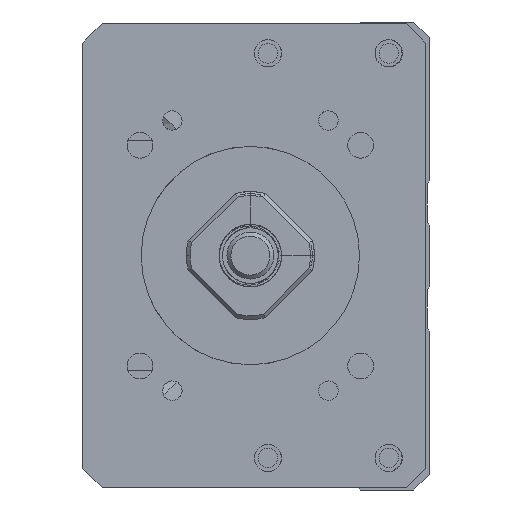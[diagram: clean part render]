
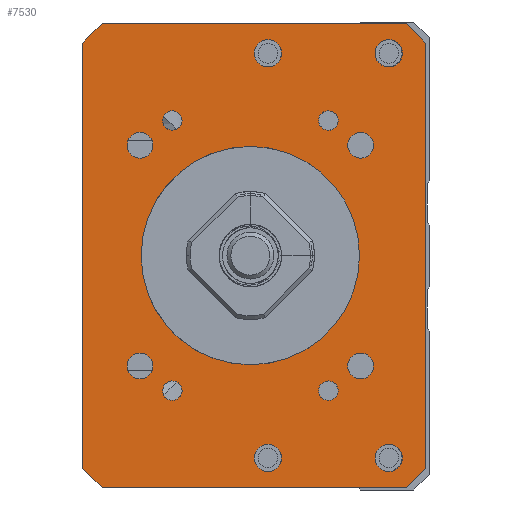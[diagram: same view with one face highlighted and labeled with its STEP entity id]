
A CAD part, left-side view. The second image highlights one B-rep face of the part: STEP entity #7530.
In plain terms, the highlighted planar face has unit normal (-1, 0, 0).
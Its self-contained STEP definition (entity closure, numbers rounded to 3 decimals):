
#4577=CIRCLE('',#14861,14.);
#4586=CIRCLE('',#14872,1.65);
#4587=CIRCLE('',#14873,1.65);
#4588=CIRCLE('',#14874,1.65);
#4589=CIRCLE('',#14875,1.65);
#4590=CIRCLE('',#14876,1.25);
#4591=CIRCLE('',#14877,1.75);
#4592=CIRCLE('',#14878,1.25);
#4593=CIRCLE('',#14879,1.75);
#4594=CIRCLE('',#14880,1.25);
#4595=CIRCLE('',#14881,1.75);
#4596=CIRCLE('',#14882,1.75);
#4597=CIRCLE('',#14883,1.25);
#5029=PLANE('',#14884);
#5921=LINE('',#19464,#6734);
#5923=LINE('',#19488,#6736);
#5924=LINE('',#19490,#6737);
#5925=LINE('',#19492,#6738);
#5926=LINE('',#19494,#6739);
#5927=LINE('',#19496,#6740);
#5928=LINE('',#19498,#6741);
#5929=LINE('',#19500,#6742);
#6734=VECTOR('',#16359,1.);
#6736=VECTOR('',#16383,1.);
#6737=VECTOR('',#16384,1.);
#6738=VECTOR('',#16385,1.);
#6739=VECTOR('',#16386,1.);
#6740=VECTOR('',#16387,1.);
#6741=VECTOR('',#16388,1.);
#6742=VECTOR('',#16389,1.);
#7530=ADVANCED_FACE('',(#8299,#8300,#8301,#8302,#8303,#8304,#8305,#8306,
#8307,#8308,#8309,#8310,#8311,#8312),#5029,.F.);
#8299=FACE_BOUND('',#8830,.T.);
#8300=FACE_BOUND('',#8831,.T.);
#8301=FACE_BOUND('',#8832,.T.);
#8302=FACE_BOUND('',#8833,.T.);
#8303=FACE_BOUND('',#8834,.T.);
#8304=FACE_BOUND('',#8835,.T.);
#8305=FACE_BOUND('',#8836,.T.);
#8306=FACE_BOUND('',#8837,.T.);
#8307=FACE_BOUND('',#8838,.T.);
#8308=FACE_BOUND('',#8839,.T.);
#8309=FACE_BOUND('',#8840,.T.);
#8310=FACE_BOUND('',#8841,.T.);
#8311=FACE_BOUND('',#8842,.T.);
#8312=FACE_BOUND('',#8843,.T.);
#8830=EDGE_LOOP('',(#10151));
#8831=EDGE_LOOP('',(#10152));
#8832=EDGE_LOOP('',(#10153));
#8833=EDGE_LOOP('',(#10154));
#8834=EDGE_LOOP('',(#10155));
#8835=EDGE_LOOP('',(#10156));
#8836=EDGE_LOOP('',(#10157));
#8837=EDGE_LOOP('',(#10158));
#8838=EDGE_LOOP('',(#10159));
#8839=EDGE_LOOP('',(#10160,#10161,#10162,#10163,#10164,#10165,#10166,#10167));
#8840=EDGE_LOOP('',(#10168));
#8841=EDGE_LOOP('',(#10169));
#8842=EDGE_LOOP('',(#10170));
#8843=EDGE_LOOP('',(#10171));
#10151=ORIENTED_EDGE('',*,*,#13492,.F.);
#10152=ORIENTED_EDGE('',*,*,#13493,.F.);
#10153=ORIENTED_EDGE('',*,*,#13494,.F.);
#10154=ORIENTED_EDGE('',*,*,#13495,.F.);
#10155=ORIENTED_EDGE('',*,*,#13496,.F.);
#10156=ORIENTED_EDGE('',*,*,#13497,.T.);
#10157=ORIENTED_EDGE('',*,*,#13498,.F.);
#10158=ORIENTED_EDGE('',*,*,#13499,.F.);
#10159=ORIENTED_EDGE('',*,*,#13500,.F.);
#10160=ORIENTED_EDGE('',*,*,#13489,.T.);
#10161=ORIENTED_EDGE('',*,*,#13501,.T.);
#10162=ORIENTED_EDGE('',*,*,#13502,.F.);
#10163=ORIENTED_EDGE('',*,*,#13503,.T.);
#10164=ORIENTED_EDGE('',*,*,#13504,.F.);
#10165=ORIENTED_EDGE('',*,*,#13505,.T.);
#10166=ORIENTED_EDGE('',*,*,#13506,.T.);
#10167=ORIENTED_EDGE('',*,*,#13507,.T.);
#10168=ORIENTED_EDGE('',*,*,#13508,.F.);
#10169=ORIENTED_EDGE('',*,*,#13509,.F.);
#10170=ORIENTED_EDGE('',*,*,#13510,.F.);
#10171=ORIENTED_EDGE('',*,*,#13469,.F.);
#12417=VERTEX_POINT('',#19403);
#12437=VERTEX_POINT('',#19463);
#12438=VERTEX_POINT('',#19465);
#12440=VERTEX_POINT('',#19471);
#12441=VERTEX_POINT('',#19473);
#12442=VERTEX_POINT('',#19475);
#12443=VERTEX_POINT('',#19477);
#12444=VERTEX_POINT('',#19479);
#12445=VERTEX_POINT('',#19481);
#12446=VERTEX_POINT('',#19483);
#12447=VERTEX_POINT('',#19485);
#12448=VERTEX_POINT('',#19487);
#12449=VERTEX_POINT('',#19489);
#12450=VERTEX_POINT('',#19491);
#12451=VERTEX_POINT('',#19493);
#12452=VERTEX_POINT('',#19495);
#12453=VERTEX_POINT('',#19497);
#12454=VERTEX_POINT('',#19499);
#12455=VERTEX_POINT('',#19502);
#12456=VERTEX_POINT('',#19504);
#12457=VERTEX_POINT('',#19506);
#13469=EDGE_CURVE('',#12417,#12417,#4577,.T.);
#13489=EDGE_CURVE('',#12438,#12437,#5921,.T.);
#13492=EDGE_CURVE('',#12440,#12440,#4586,.T.);
#13493=EDGE_CURVE('',#12441,#12441,#4587,.T.);
#13494=EDGE_CURVE('',#12442,#12442,#4588,.T.);
#13495=EDGE_CURVE('',#12443,#12443,#4589,.T.);
#13496=EDGE_CURVE('',#12444,#12444,#4590,.T.);
#13497=EDGE_CURVE('',#12445,#12445,#4591,.T.);
#13498=EDGE_CURVE('',#12446,#12446,#4592,.T.);
#13499=EDGE_CURVE('',#12447,#12447,#4593,.T.);
#13500=EDGE_CURVE('',#12448,#12448,#4594,.T.);
#13501=EDGE_CURVE('',#12437,#12449,#5923,.T.);
#13502=EDGE_CURVE('',#12450,#12449,#5924,.T.);
#13503=EDGE_CURVE('',#12450,#12451,#5925,.T.);
#13504=EDGE_CURVE('',#12452,#12451,#5926,.T.);
#13505=EDGE_CURVE('',#12452,#12453,#5927,.T.);
#13506=EDGE_CURVE('',#12453,#12454,#5928,.T.);
#13507=EDGE_CURVE('',#12454,#12438,#5929,.T.);
#13508=EDGE_CURVE('',#12455,#12455,#4595,.T.);
#13509=EDGE_CURVE('',#12456,#12456,#4596,.T.);
#13510=EDGE_CURVE('',#12457,#12457,#4597,.T.);
#14861=AXIS2_PLACEMENT_3D('',#19402,#16333,#16334);
#14872=AXIS2_PLACEMENT_3D('',#19470,#16365,#16366);
#14873=AXIS2_PLACEMENT_3D('',#19472,#16367,#16368);
#14874=AXIS2_PLACEMENT_3D('',#19474,#16369,#16370);
#14875=AXIS2_PLACEMENT_3D('',#19476,#16371,#16372);
#14876=AXIS2_PLACEMENT_3D('',#19478,#16373,#16374);
#14877=AXIS2_PLACEMENT_3D('',#19480,#16375,#16376);
#14878=AXIS2_PLACEMENT_3D('',#19482,#16377,#16378);
#14879=AXIS2_PLACEMENT_3D('',#19484,#16379,#16380);
#14880=AXIS2_PLACEMENT_3D('',#19486,#16381,#16382);
#14881=AXIS2_PLACEMENT_3D('',#19501,#16390,#16391);
#14882=AXIS2_PLACEMENT_3D('',#19503,#16392,#16393);
#14883=AXIS2_PLACEMENT_3D('',#19505,#16394,#16395);
#14884=AXIS2_PLACEMENT_3D('',#19507,#16396,#16397);
#16333=DIRECTION('',(-1.,0.,0.));
#16334=DIRECTION('',(0.,1.,0.));
#16359=DIRECTION('',(0.,0.,-1.));
#16365=DIRECTION('',(-1.,0.,0.));
#16366=DIRECTION('',(0.,0.,1.));
#16367=DIRECTION('',(-1.,0.,0.));
#16368=DIRECTION('',(0.,0.,1.));
#16369=DIRECTION('',(-1.,0.,0.));
#16370=DIRECTION('',(0.,0.,1.));
#16371=DIRECTION('',(-1.,0.,0.));
#16372=DIRECTION('',(0.,0.,1.));
#16373=DIRECTION('',(-1.,0.,0.));
#16374=DIRECTION('',(0.,1.,0.));
#16375=DIRECTION('',(1.,0.,0.));
#16376=DIRECTION('',(0.,0.,1.));
#16377=DIRECTION('',(-1.,0.,0.));
#16378=DIRECTION('',(0.,1.,0.));
#16379=DIRECTION('',(-1.,0.,0.));
#16380=DIRECTION('',(0.,0.,1.));
#16381=DIRECTION('',(-1.,0.,0.));
#16382=DIRECTION('',(0.,1.,0.));
#16383=DIRECTION('',(0.,-0.707,-0.707));
#16384=DIRECTION('',(0.,1.,0.));
#16385=DIRECTION('',(0.,-0.707,0.707));
#16386=DIRECTION('',(0.,0.,-1.));
#16387=DIRECTION('',(0.,0.707,0.707));
#16388=DIRECTION('',(0.,1.,0.));
#16389=DIRECTION('',(0.,0.707,-0.707));
#16390=DIRECTION('',(-1.,0.,0.));
#16391=DIRECTION('',(0.,0.,1.));
#16392=DIRECTION('',(-1.,0.,0.));
#16393=DIRECTION('',(0.,0.,1.));
#16394=DIRECTION('',(-1.,0.,0.));
#16395=DIRECTION('',(0.,1.,0.));
#16396=DIRECTION('',(1.,0.,0.));
#16397=DIRECTION('',(0.,1.,0.));
#19402=CARTESIAN_POINT('',(-211.,0.,-100.));
#19403=CARTESIAN_POINT('',(-211.,14.,-100.));
#19463=CARTESIAN_POINT('',(-211.,21.499,-127.25));
#19464=CARTESIAN_POINT('',(-211.,21.499,-70.25));
#19465=CARTESIAN_POINT('',(-211.,21.499,-72.75));
#19470=CARTESIAN_POINT('',(-211.,14.142,-85.858));
#19471=CARTESIAN_POINT('',(-211.,14.142,-84.208));
#19472=CARTESIAN_POINT('',(-211.,-14.142,-85.858));
#19473=CARTESIAN_POINT('',(-211.,-14.142,-84.208));
#19474=CARTESIAN_POINT('',(-211.,14.142,-114.142));
#19475=CARTESIAN_POINT('',(-211.,14.142,-112.492));
#19476=CARTESIAN_POINT('',(-211.,-14.142,-114.142));
#19477=CARTESIAN_POINT('',(-211.,-14.142,-112.492));
#19478=CARTESIAN_POINT('',(-211.,-10.,-117.321));
#19479=CARTESIAN_POINT('',(-211.,-8.75,-117.321));
#19480=CARTESIAN_POINT('',(-211.,-2.25,-125.936));
#19481=CARTESIAN_POINT('',(-211.,-2.25,-124.186));
#19482=CARTESIAN_POINT('',(-211.,10.,-82.679));
#19483=CARTESIAN_POINT('',(-211.,11.25,-82.679));
#19484=CARTESIAN_POINT('',(-211.,-2.25,-74.064));
#19485=CARTESIAN_POINT('',(-211.,-2.25,-72.314));
#19486=CARTESIAN_POINT('',(-211.,10.,-117.321));
#19487=CARTESIAN_POINT('',(-211.,11.25,-117.321));
#19488=CARTESIAN_POINT('',(-211.,18.999,-129.75));
#19489=CARTESIAN_POINT('',(-211.,18.999,-129.75));
#19490=CARTESIAN_POINT('',(-211.,-22.501,-129.75));
#19491=CARTESIAN_POINT('',(-211.,-20.001,-129.75));
#19492=CARTESIAN_POINT('',(-211.,-22.501,-127.25));
#19493=CARTESIAN_POINT('',(-211.,-22.501,-127.25));
#19494=CARTESIAN_POINT('',(-211.,-22.501,-70.25));
#19495=CARTESIAN_POINT('',(-211.,-22.501,-72.75));
#19496=CARTESIAN_POINT('',(-211.,-22.501,-72.75));
#19497=CARTESIAN_POINT('',(-211.,-20.001,-70.25));
#19498=CARTESIAN_POINT('',(-211.,-22.501,-70.25));
#19499=CARTESIAN_POINT('',(-211.,18.999,-70.25));
#19500=CARTESIAN_POINT('',(-211.,18.999,-70.25));
#19501=CARTESIAN_POINT('',(-211.,-17.75,-74.064));
#19502=CARTESIAN_POINT('',(-211.,-17.75,-72.314));
#19503=CARTESIAN_POINT('',(-211.,-17.75,-125.936));
#19504=CARTESIAN_POINT('',(-211.,-17.75,-124.186));
#19505=CARTESIAN_POINT('',(-211.,-10.,-82.679));
#19506=CARTESIAN_POINT('',(-211.,-8.75,-82.679));
#19507=CARTESIAN_POINT('',(-211.,-22.501,-70.25));
